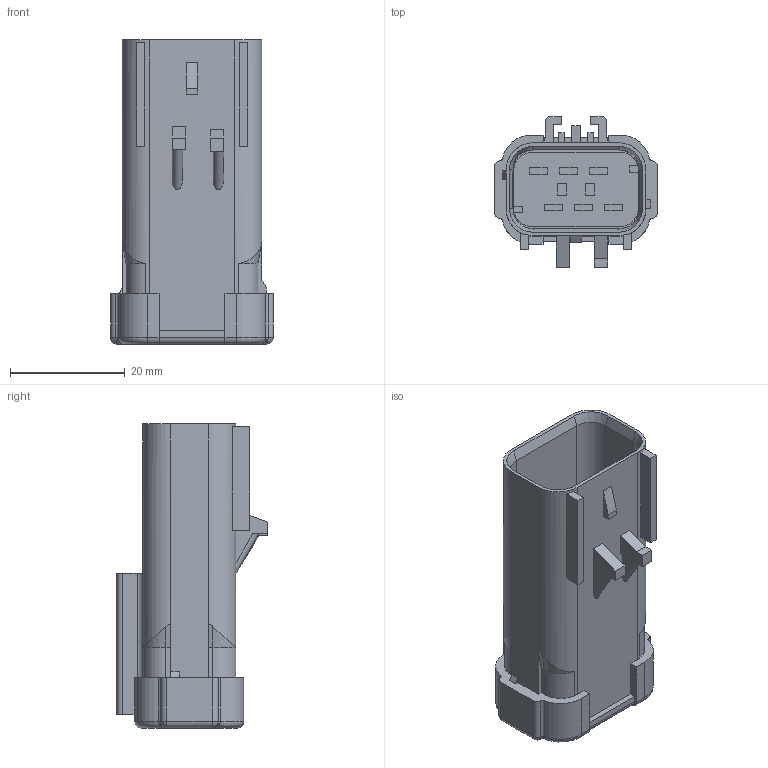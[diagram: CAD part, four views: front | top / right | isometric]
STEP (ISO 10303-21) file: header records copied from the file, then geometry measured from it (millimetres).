
FILE_DESCRIPTION(/* description */ (''),/* implementation_level */ '2;1');
FILE_NAME(/* name */ '13589577-STEP-3D.stp',/* time_stamp */ '2021-06-14T13:49:24+05:00',/* author */ (''),/* organization */ (''),/* preprocessor_version */ 'ST-DEVELOPER v16.7',/* originating_system */ 'SIEMENS PLM Software NX 12.0',/* authorisation */ '');
FILE_SCHEMA (('AUTOMOTIVE_DESIGN { 1 0 10303 214 3 1 1 1 }'));
Length unit declared in the file: millimetre
Products named in the file (1): cjzt2ACC5D4Doi2u
Bounding box: 28.4 x 26.3 x 53 mm (x, y, z)
Volume: 15403.6 mm3; surface area: 9645.3 mm2
Topology: 1 solids, 1 shells, 298 faces, 771 edges, 497 vertices
Faces by surface type: plane 202, cylinder 72, bspline 12, cone 8, torus 4
Entity records: 9673 total; most frequent: CARTESIAN_POINT 2385, ORIENTED_EDGE 1542, DIRECTION 1445, EDGE_CURVE 771, LINE 571, VECTOR 571, VERTEX_POINT 497, AXIS2_PLACEMENT_3D 437
